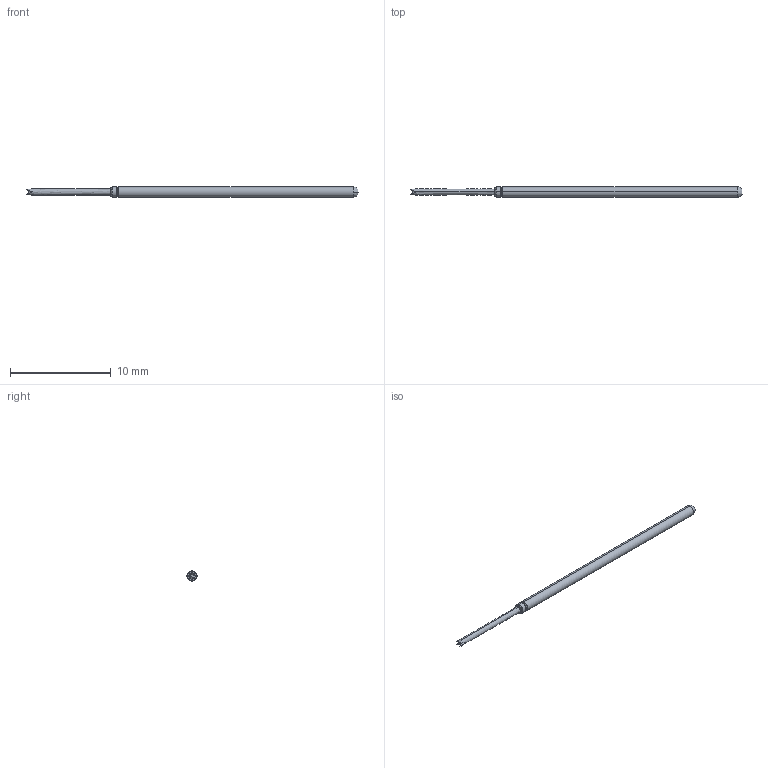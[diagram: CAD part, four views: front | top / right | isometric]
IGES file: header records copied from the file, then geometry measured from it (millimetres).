
Start section: SolidWorks IGES file using analytic representation for surfaces
Global section: file name: Z:\probe solid model mockups\Solidworks models\Parts\LFRE-1L24.IGS; native system: SolidWorks 2016; preprocessor: SolidWorks 2016; author: mlee; date: 180927.163647; units: inch
Bounding box: 33.02 x 1.02 x 1.02 mm (x, y, z)
Surface area: 95.5 mm2 (no closed solid volume)
Topology: 0 solids, 0 shells, 26 faces, 170 edges, 170 vertices
Faces by surface type: bspline 14, revolution 12
